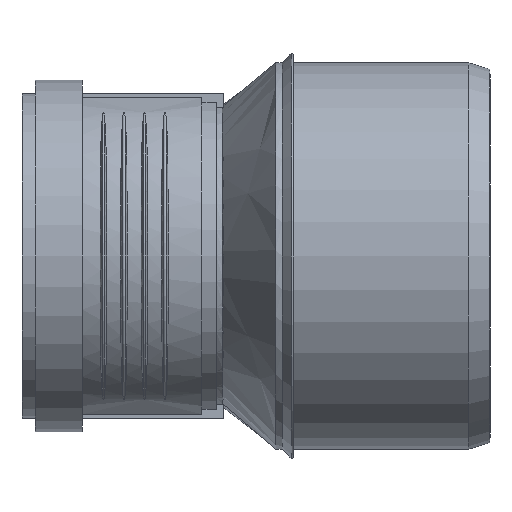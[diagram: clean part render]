
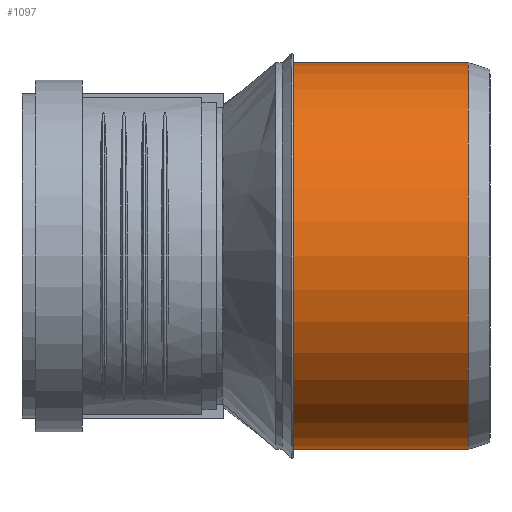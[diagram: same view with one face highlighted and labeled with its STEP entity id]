
A CAD part, left-side view. The second image highlights one B-rep face of the part: STEP entity #1097.
In plain terms, the highlighted cylindrical face has radius 80.125 mm (diameter 160.25 mm), a full revolution.
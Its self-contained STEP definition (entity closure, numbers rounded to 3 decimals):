
#124=CYLINDRICAL_SURFACE($,#1182,80.125);
#148=FACE_BOUND($,#277,.T.);
#208=FACE_OUTER_BOUND($,#276,.T.);
#276=EDGE_LOOP($,(#755));
#277=EDGE_LOOP($,(#756));
#427=CIRCLE($,#1181,80.125);
#428=CIRCLE($,#1183,80.125);
#486=VERTEX_POINT($,#1660);
#487=VERTEX_POINT($,#1663);
#599=EDGE_CURVE($,#486,#486,#427,.T.);
#600=EDGE_CURVE($,#487,#487,#428,.T.);
#755=ORIENTED_EDGE($,*,*,#600,.F.);
#756=ORIENTED_EDGE($,*,*,#599,.T.);
#1097=ADVANCED_FACE($,(#208,#148),#124,.T.);
#1181=AXIS2_PLACEMENT_3D($,#1661,#1331,#1332);
#1182=AXIS2_PLACEMENT_3D($,#1662,#1333,#1334);
#1183=AXIS2_PLACEMENT_3D($,#1664,#1335,#1336);
#1331=DIRECTION('center_axis',(0.,-1.,0.));
#1332=DIRECTION('ref_axis',(1.,0.,0.));
#1333=DIRECTION('center_axis',(0.,-1.,0.));
#1334=DIRECTION('ref_axis',(1.,0.,0.));
#1335=DIRECTION('center_axis',(0.,-1.,0.));
#1336=DIRECTION('ref_axis',(1.,0.,0.));
#1660=CARTESIAN_POINT('',(80.125,81.6,0.));
#1661=CARTESIAN_POINT('Origin',(0.,81.6,0.));
#1662=CARTESIAN_POINT('Origin',(0.,45.3,0.));
#1663=CARTESIAN_POINT('',(80.125,9.,0.));
#1664=CARTESIAN_POINT('Origin',(0.,9.,0.));
